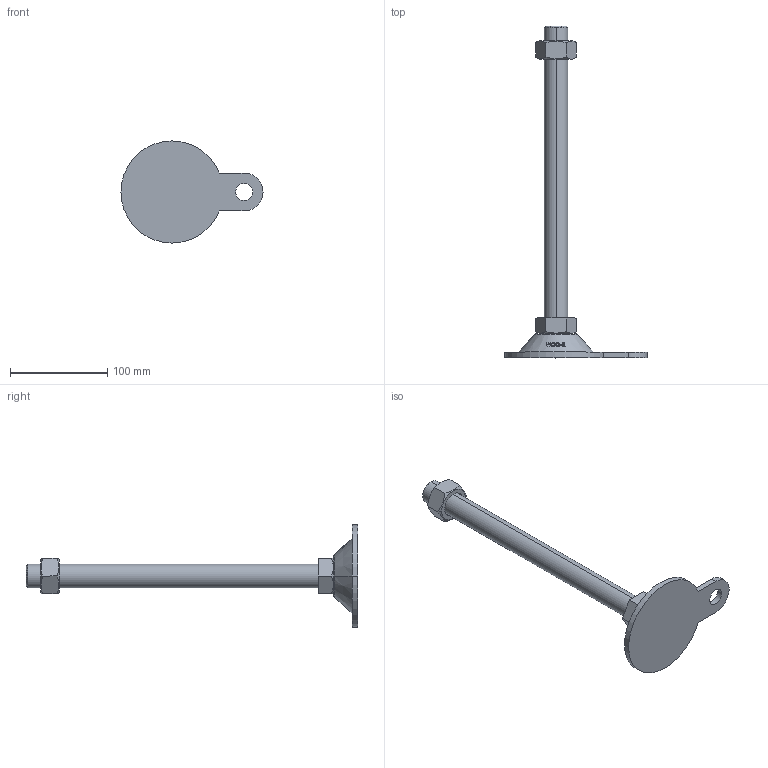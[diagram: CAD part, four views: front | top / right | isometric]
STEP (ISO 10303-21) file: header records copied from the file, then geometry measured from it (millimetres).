
FILE_DESCRIPTION (( 'STEP AP214' ), '1' );
FILE_NAME ('ABL105-M24-300.step', '2021-02-05T04:17:36', ( '' ), ( '' ), 'SwSTEP 2.0', 'SolidWorks 2019', '' );
FILE_SCHEMA (( 'AUTOMOTIVE_DESIGN' ));
Length unit declared in the file: millimetre
Products named in the file (2): ABL105-M24-300
Bounding box: 146 x 341 x 104.98 mm (x, y, z)
Volume: 279825.1 mm3; surface area: 53876.9 mm2
Topology: 2 solids, 2 shells, 128 faces, 325 edges, 212 vertices
Faces by surface type: plane 48, cylinder 38, cone 22, bspline 18, torus 2
Entity records: 5469 total; most frequent: CARTESIAN_POINT 2583, ORIENTED_EDGE 650, DIRECTION 473, EDGE_CURVE 325, VERTEX_POINT 212, AXIS2_PLACEMENT_3D 176, EDGE_LOOP 143, B_SPLINE_CURVE_WITH_KNOTS 140
